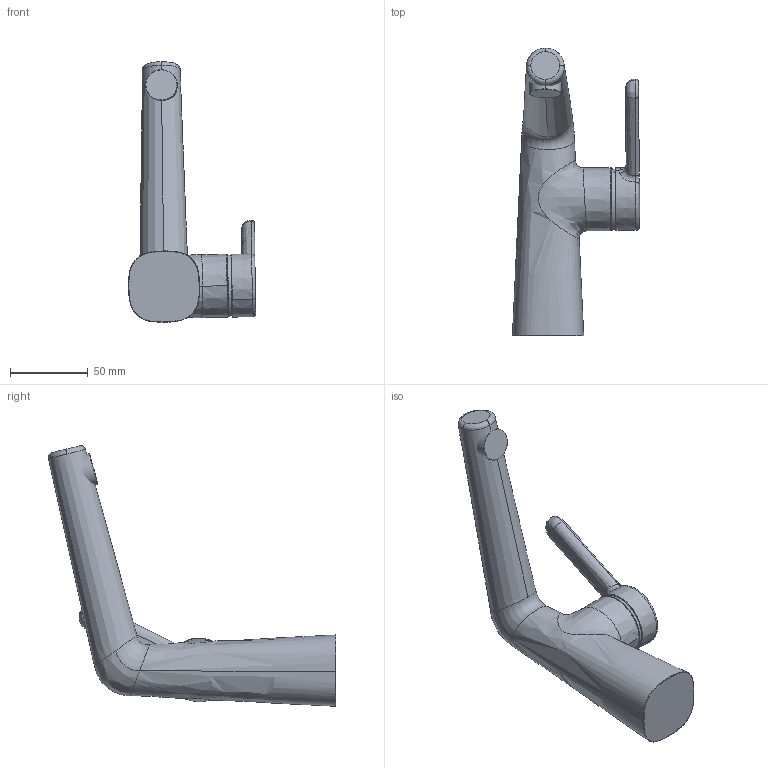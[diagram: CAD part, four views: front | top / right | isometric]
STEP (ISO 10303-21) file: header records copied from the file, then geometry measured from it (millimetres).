
FILE_DESCRIPTION (( 'STEP AP203' ), '1' );
FILE_NAME ('51922283.STEP', '2017-03-13T13:22:53', ( '' ), ( '' ), 'SwSTEP 2.0', 'SolidWorks 2016', '' );
FILE_SCHEMA (( 'CONFIG_CONTROL_DESIGN' ));
Length unit declared in the file: millimetre
Products named in the file (1): 51922283
Bounding box: 81.96 x 185.29 x 167.91 mm (x, y, z)
Volume: 344461.2 mm3; surface area: 47722.2 mm2
Topology: 4 solids, 4 shells, 60 faces, 123 edges, 71 vertices
Faces by surface type: bspline 28, plane 11, torus 9, cylinder 6, cone 4, sphere 2
Entity records: 7313 total; most frequent: CARTESIAN_POINT 6150, ORIENTED_EDGE 246, DIRECTION 182, EDGE_CURVE 123, AXIS2_PLACEMENT_3D 79, VERTEX_POINT 71, EDGE_LOOP 60, ADVANCED_FACE 60
